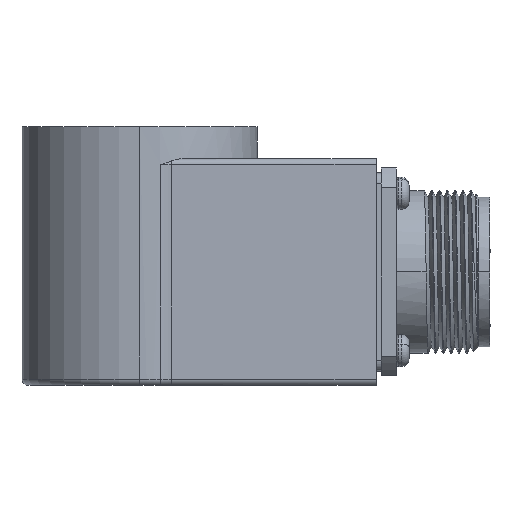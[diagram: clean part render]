
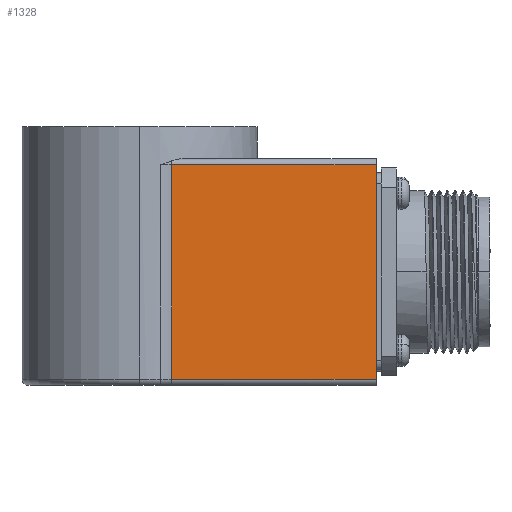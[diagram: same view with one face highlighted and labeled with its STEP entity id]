
A CAD part, left-side view. The second image highlights one B-rep face of the part: STEP entity #1328.
In plain terms, the highlighted planar face has unit normal (-1, -0.006, 0).
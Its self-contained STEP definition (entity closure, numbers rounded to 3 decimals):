
#93 = CARTESIAN_POINT ( 'NONE',  ( -17.945, -5.001, 34.5 ) ) ;
#358 = CARTESIAN_POINT ( 'NONE',  ( -17.75, -37., 35.5 ) ) ;
#1282 = VERTEX_POINT ( 'NONE', #93 ) ;
#1328 = ADVANCED_FACE ( 'NONE', ( #8030 ), #1549, .T. ) ;
#1549 = PLANE ( 'NONE',  #3614 ) ;
#1938 = ORIENTED_EDGE ( 'NONE', *, *, #9827, .T. ) ;
#2345 = EDGE_CURVE ( 'NONE', #1282, #5687, #5776, .T. ) ;
#3259 = DIRECTION ( 'NONE',  ( 0., 0., -1. ) ) ;
#3313 = VERTEX_POINT ( 'NONE', #3979 ) ;
#3476 = CARTESIAN_POINT ( 'NONE',  ( -17.945, -5.001, 34.5 ) ) ;
#3614 = AXIS2_PLACEMENT_3D ( 'NONE', #358, #13622, #6417 ) ;
#3839 = CARTESIAN_POINT ( 'NONE',  ( -17.75, -37., 1. ) ) ;
#3858 = EDGE_CURVE ( 'NONE', #3313, #11037, #4868, .T. ) ;
#3979 = CARTESIAN_POINT ( 'NONE',  ( -17.75, -37., 34.5 ) ) ;
#4868 = LINE ( 'NONE', #4988, #11281 ) ;
#4988 = CARTESIAN_POINT ( 'NONE',  ( -17.75, -37., 35.5 ) ) ;
#5348 = ORIENTED_EDGE ( 'NONE', *, *, #3858, .F. ) ;
#5687 = VERTEX_POINT ( 'NONE', #8361 ) ;
#5776 = LINE ( 'NONE', #15272, #14598 ) ;
#6044 = EDGE_LOOP ( 'NONE', ( #5348, #8446, #9057, #1938 ) ) ;
#6045 = VECTOR ( 'NONE', #11928, 1000. ) ;
#6064 = LINE ( 'NONE', #3839, #9246 ) ;
#6417 = DIRECTION ( 'NONE',  ( 0.006, -1., 0. ) ) ;
#8030 = FACE_OUTER_BOUND ( 'NONE', #6044, .T. ) ;
#8361 = CARTESIAN_POINT ( 'NONE',  ( -17.945, -5.001, 1. ) ) ;
#8446 = ORIENTED_EDGE ( 'NONE', *, *, #10537, .T. ) ;
#9057 = ORIENTED_EDGE ( 'NONE', *, *, #2345, .T. ) ;
#9246 = VECTOR ( 'NONE', #11053, 1000. ) ;
#9827 = EDGE_CURVE ( 'NONE', #5687, #11037, #6064, .T. ) ;
#10537 = EDGE_CURVE ( 'NONE', #3313, #1282, #12458, .T. ) ;
#11037 = VERTEX_POINT ( 'NONE', #13066 ) ;
#11053 = DIRECTION ( 'NONE',  ( 0.006, -1., 0. ) ) ;
#11281 = VECTOR ( 'NONE', #14532, 1000. ) ;
#11928 = DIRECTION ( 'NONE',  ( -0.006, 1., 0. ) ) ;
#12458 = LINE ( 'NONE', #3476, #6045 ) ;
#13066 = CARTESIAN_POINT ( 'NONE',  ( -17.75, -37., 1. ) ) ;
#13622 = DIRECTION ( 'NONE',  ( -1., -0.006, 0. ) ) ;
#14532 = DIRECTION ( 'NONE',  ( 0., 0., -1. ) ) ;
#14598 = VECTOR ( 'NONE', #3259, 1000. ) ;
#15272 = CARTESIAN_POINT ( 'NONE',  ( -17.945, -5.001, 0. ) ) ;
